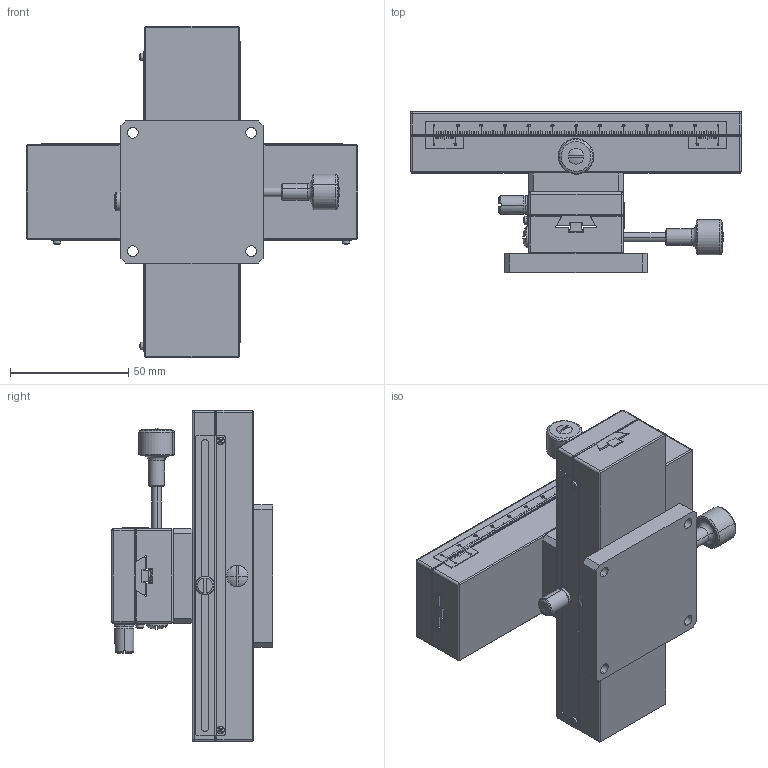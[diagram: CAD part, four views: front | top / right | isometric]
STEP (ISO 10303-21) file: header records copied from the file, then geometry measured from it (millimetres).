
FILE_DESCRIPTION (( 'STEP AP203' ), '1' );
FILE_NAME ('MC2B-140(«¬¿ý).STEP', '2013-08-10T05:02:47', ( '' ), ( '' ), 'SwSTEP 2.0', 'SolidWorks 2013', '' );
FILE_SCHEMA (( 'CONFIG_CONTROL_DESIGN' ));
Length unit declared in the file: millimetre
Products named in the file (5): Group1^MC2B-140(型錄); Group2^MC2B-140(型錄); Group3^MC2B-140(型錄); Group4^MC2B-140(型錄); MC2B-140(型錄)
Assembly tree (4 placements, depth 2):
  MC2B-140(型錄)
    Group1^MC2B-140(型錄)
    Group2^MC2B-140(型錄)
    Group3^MC2B-140(型錄)
    Group4^MC2B-140(型錄)
Bounding box: 140 x 68.01 x 140 mm (x, y, z)
Volume: 332147.1 mm3; surface area: 90485.5 mm2
Topology: 4 solids, 4 shells, 3064 faces, 8401 edges, 5508 vertices
Faces by surface type: plane 2147, bspline 555, cylinder 180, cone 118, sphere 36, torus 28
Entity records: 133688 total; most frequent: CARTESIAN_POINT 58769, ORIENTED_EDGE 16770, DIRECTION 12995, EDGE_CURVE 8385, LINE 6367, VECTOR 6367, VERTEX_POINT 5508, AXIS2_PLACEMENT_3D 3314
